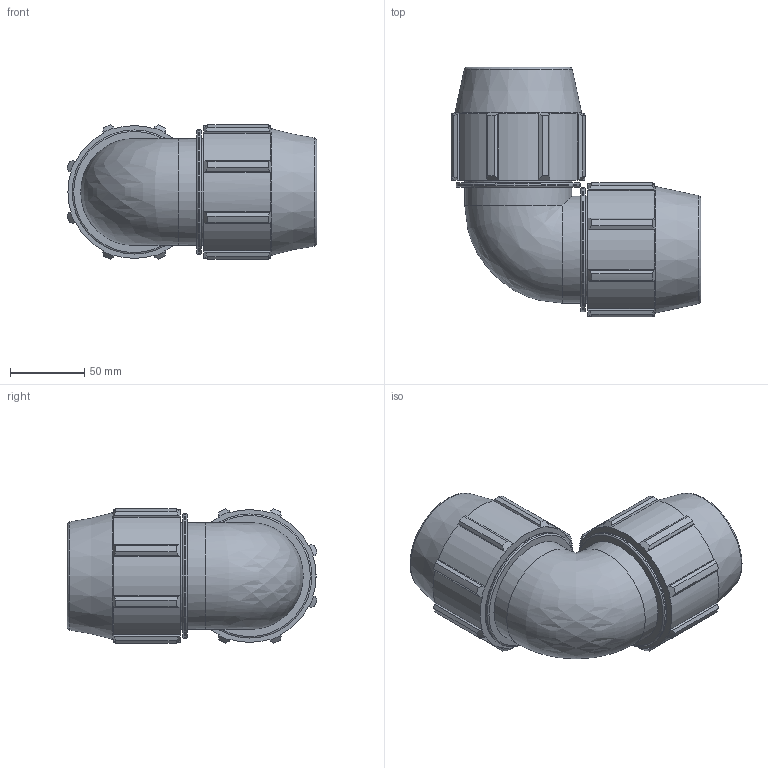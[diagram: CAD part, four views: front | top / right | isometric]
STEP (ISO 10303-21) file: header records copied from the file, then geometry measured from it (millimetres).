
FILE_DESCRIPTION(/* description */ ('PLASSON 90° ELBOW 1 1/2'''' - 1 1/2'''''),/* implementation_level */ '2;1');
FILE_NAME(/* name */ 'C:\Dropbox\KIMPROJECTS-Inventor 2019\99-16-3568-Processing Inch\ASTM Compression 2021\0705M0\0705M0015.ipt.stp',/* time_stamp */ '2021-08-26T12:31:57+03:00',/* author */ ('KIM'),/* organization */ (''),/* preprocessor_version */ 'ST-DEVELOPER v17.2',/* originating_system */ 'Autodesk Inventor 2019',/* authorisation */ '');
FILE_SCHEMA (('AUTOMOTIVE_DESIGN { 1 0 10303 214 3 1 1 }'));
Length unit declared in the file: inch
Products named in the file (1): 0705M0015
Bounding box: 168.11 x 168.11 x 90.34 mm (x, y, z)
Volume: 812528.4 mm3; surface area: 113864.3 mm2
Topology: 1 solids, 1 shells, 148 faces, 436 edges, 298 vertices
Faces by surface type: plane 76, cylinder 40, cone 24, torus 7, bspline 1
Full cylindrical faces by diameter (mm): 48.1 x2, 72.009 x4, 83.53 x2
Entity records: 5177 total; most frequent: CARTESIAN_POINT 1035, ORIENTED_EDGE 868, DIRECTION 828, EDGE_CURVE 434, AXIS2_PLACEMENT_3D 310, VERTEX_POINT 298, LINE 208, VECTOR 208
